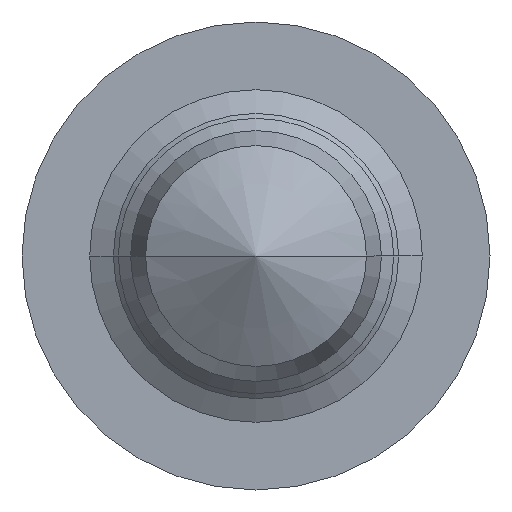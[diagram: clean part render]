
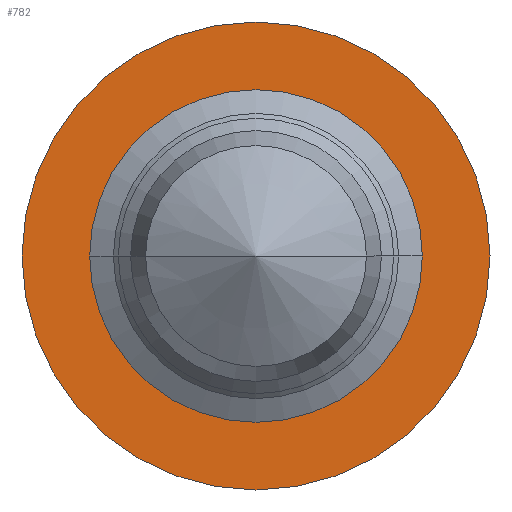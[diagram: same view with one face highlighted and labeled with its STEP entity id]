
A CAD part, front view. The second image highlights one B-rep face of the part: STEP entity #782.
In plain terms, the highlighted planar face has unit normal (0, -1, 0).
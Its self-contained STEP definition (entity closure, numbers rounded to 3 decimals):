
#620=CARTESIAN_POINT('',(-0.378,-0.031,0.0));
#621=VERTEX_POINT('',#620);
#629=CARTESIAN_POINT('',(0.378,-0.031,0.));
#630=VERTEX_POINT('',#629);
#637=CARTESIAN_POINT('',(0.0,-0.031,0.0));
#638=DIRECTION('',(0.0,-1.0,0.0));
#639=DIRECTION('',(-1.0,0.0,0.0));
#640=AXIS2_PLACEMENT_3D('',#637,#638,#639);
#641=CIRCLE('',#640,0.378);
#642=EDGE_CURVE('',#630,#621,#641,.T.);
#652=CARTESIAN_POINT('',(-0.531,-0.031,0.0));
#653=VERTEX_POINT('',#652);
#662=CARTESIAN_POINT('',(0.531,-0.031,0.));
#663=VERTEX_POINT('',#662);
#664=CARTESIAN_POINT('',(0.0,-0.031,0.0));
#665=DIRECTION('',(0.0,-1.0,0.0));
#666=DIRECTION('',(-1.0,0.0,0.0));
#667=AXIS2_PLACEMENT_3D('',#664,#665,#666);
#668=CIRCLE('',#667,0.531);
#669=EDGE_CURVE('',#663,#653,#668,.T.);
#753=CARTESIAN_POINT('',(0.0,-0.031,0.0));
#754=DIRECTION('',(0.0,-1.0,0.0));
#755=DIRECTION('',(-1.0,0.0,0.0));
#756=AXIS2_PLACEMENT_3D('',#753,#754,#755);
#757=CIRCLE('',#756,0.531);
#758=EDGE_CURVE('',#653,#663,#757,.T.);
#763=CARTESIAN_POINT('',(-0.454,-0.031,0.0));
#764=DIRECTION('',(0.0,-1.0,0.0));
#765=DIRECTION('',(0.0,0.0,-1.0));
#766=AXIS2_PLACEMENT_3D('',#763,#764,#765);
#767=PLANE('',#766);
#768=ORIENTED_EDGE('',*,*,#758,.T.);
#769=ORIENTED_EDGE('',*,*,#669,.T.);
#770=EDGE_LOOP('',(#768,#769));
#771=FACE_OUTER_BOUND('',#770,.T.);
#772=CARTESIAN_POINT('',(0.0,-0.031,0.0));
#773=DIRECTION('',(0.0,-1.0,0.0));
#774=DIRECTION('',(-1.0,0.0,0.0));
#775=AXIS2_PLACEMENT_3D('',#772,#773,#774);
#776=CIRCLE('',#775,0.378);
#777=EDGE_CURVE('',#621,#630,#776,.T.);
#778=ORIENTED_EDGE('',*,*,#777,.F.);
#779=ORIENTED_EDGE('',*,*,#642,.F.);
#780=EDGE_LOOP('',(#778,#779));
#781=FACE_BOUND('',#780,.T.);
#782=ADVANCED_FACE('',(#771,#781),#767,.T.);
